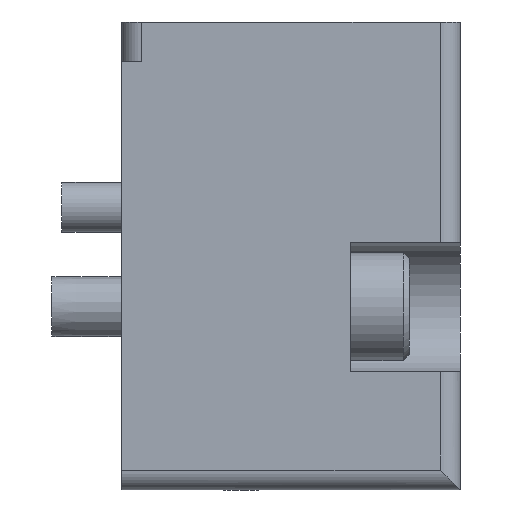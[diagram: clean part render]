
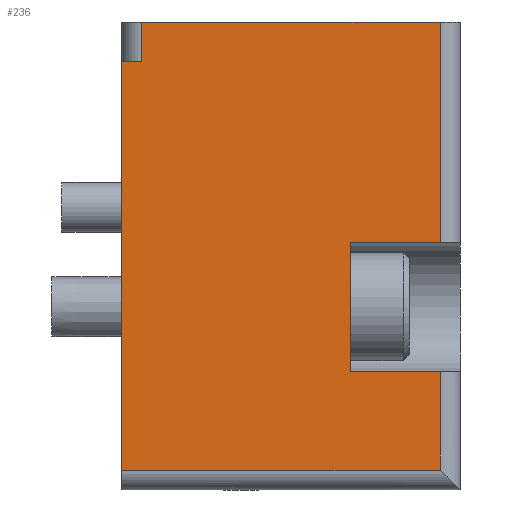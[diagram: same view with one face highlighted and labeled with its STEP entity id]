
A CAD part, left-side view. The second image highlights one B-rep face of the part: STEP entity #236.
In plain terms, the highlighted planar face has unit normal (-1, 0, 0).
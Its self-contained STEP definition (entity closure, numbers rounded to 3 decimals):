
#236=ADVANCED_FACE('',(#656),#657,.F.);
#656=FACE_OUTER_BOUND('',#1351,.T.);
#657=PLANE('',#1352);
#1351=EDGE_LOOP('',(#2076,#2077,#2078,#2079,#2080,#2081,#2082,#2083,#2084,#2085));
#1352=AXIS2_PLACEMENT_3D('',#2086,#2087,#2088);
#2076=ORIENTED_EDGE('',*,*,#3594,.T.);
#2077=ORIENTED_EDGE('',*,*,#3595,.T.);
#2078=ORIENTED_EDGE('',*,*,#3596,.F.);
#2079=ORIENTED_EDGE('',*,*,#3597,.T.);
#2080=ORIENTED_EDGE('',*,*,#3598,.T.);
#2081=ORIENTED_EDGE('',*,*,#3599,.F.);
#2082=ORIENTED_EDGE('',*,*,#3600,.T.);
#2083=ORIENTED_EDGE('',*,*,#3601,.T.);
#2084=ORIENTED_EDGE('',*,*,#3602,.F.);
#2085=ORIENTED_EDGE('',*,*,#3603,.T.);
#2086=CARTESIAN_POINT('',(-16.0,-17.0,-9.2));
#2087=DIRECTION('',(1.0,0.0,0.0));
#2088=DIRECTION('',(0.0,1.0,0.0));
#3594=EDGE_CURVE('',#4193,#4194,#4195,.T.);
#3595=EDGE_CURVE('',#4194,#4196,#4197,.T.);
#3596=EDGE_CURVE('',#4198,#4196,#4199,.T.);
#3597=EDGE_CURVE('',#4198,#4200,#4201,.T.);
#3598=EDGE_CURVE('',#4200,#4202,#4203,.T.);
#3599=EDGE_CURVE('',#4204,#4202,#4205,.T.);
#3600=EDGE_CURVE('',#4204,#4206,#4207,.T.);
#3601=EDGE_CURVE('',#4206,#4208,#4209,.T.);
#3602=EDGE_CURVE('',#4210,#4208,#4211,.T.);
#3603=EDGE_CURVE('',#4210,#4193,#4212,.T.);
#4193=VERTEX_POINT('',#5064);
#4194=VERTEX_POINT('',#5065);
#4195=LINE('',#5066,#5067);
#4196=VERTEX_POINT('',#5068);
#4197=LINE('',#5069,#5070);
#4198=VERTEX_POINT('',#5071);
#4199=LINE('',#5072,#5073);
#4200=VERTEX_POINT('',#5074);
#4201=LINE('',#5075,#5076);
#4202=VERTEX_POINT('',#5077);
#4203=LINE('',#5078,#5079);
#4204=VERTEX_POINT('',#5080);
#4205=LINE('',#5081,#5082);
#4206=VERTEX_POINT('',#5083);
#4207=LINE('',#5084,#5085);
#4208=VERTEX_POINT('',#5086);
#4209=LINE('',#5087,#5088);
#4210=VERTEX_POINT('',#5089);
#4211=LINE('',#5090,#5091);
#4212=LINE('',#5092,#5093);
#5064=CARTESIAN_POINT('',(-16.0,-11.5,3.25));
#5065=CARTESIAN_POINT('',(-16.0,-16.0,3.25));
#5066=CARTESIAN_POINT('',(-16.0,-11.5,3.25));
#5067=VECTOR('',#6102,1.0);
#5068=CARTESIAN_POINT('',(-16.0,-16.0,14.3));
#5069=CARTESIAN_POINT('',(-16.0,-16.0,-9.2));
#5070=VECTOR('',#6103,1.0);
#5071=CARTESIAN_POINT('',(-16.0,-1.,14.3));
#5072=CARTESIAN_POINT('',(-16.0,0.,14.3));
#5073=VECTOR('',#6104,1.0);
#5074=CARTESIAN_POINT('',(-16.0,-1.,12.3));
#5075=CARTESIAN_POINT('',(-16.0,-1.,12.3));
#5076=VECTOR('',#6105,1.0);
#5077=CARTESIAN_POINT('',(-16.0,0.,12.3));
#5078=CARTESIAN_POINT('',(-16.0,-17.0,12.3));
#5079=VECTOR('',#6106,1.0);
#5080=CARTESIAN_POINT('',(-16.0,0.,-8.2));
#5081=CARTESIAN_POINT('',(-16.0,0.,-9.2));
#5082=VECTOR('',#6107,1.0);
#5083=CARTESIAN_POINT('',(-16.0,-16.0,-8.2));
#5084=CARTESIAN_POINT('',(-16.0,-17.0,-8.2));
#5085=VECTOR('',#6108,1.0);
#5086=CARTESIAN_POINT('',(-16.0,-16.0,-3.25));
#5087=CARTESIAN_POINT('',(-16.0,-16.0,-9.2));
#5088=VECTOR('',#6109,1.0);
#5089=CARTESIAN_POINT('',(-16.0,-11.5,-3.25));
#5090=CARTESIAN_POINT('',(-16.0,-11.5,-3.25));
#5091=VECTOR('',#6110,1.0);
#5092=CARTESIAN_POINT('',(-16.0,-11.5,-3.25));
#5093=VECTOR('',#6111,1.0);
#6102=DIRECTION('',(0.0,-1.0,0.0));
#6103=DIRECTION('',(0.0,0.0,1.0));
#6104=DIRECTION('',(0.0,-1.0,0.0));
#6105=DIRECTION('',(0.0,0.0,-1.0));
#6106=DIRECTION('',(0.0,1.0,0.0));
#6107=DIRECTION('',(0.0,0.0,1.0));
#6108=DIRECTION('',(0.0,-1.0,0.0));
#6109=DIRECTION('',(0.0,0.0,1.0));
#6110=DIRECTION('',(0.0,-1.0,0.0));
#6111=DIRECTION('',(0.0,0.0,1.0));
